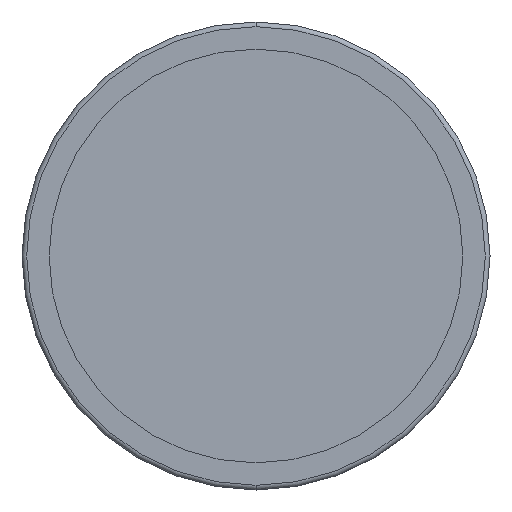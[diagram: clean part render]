
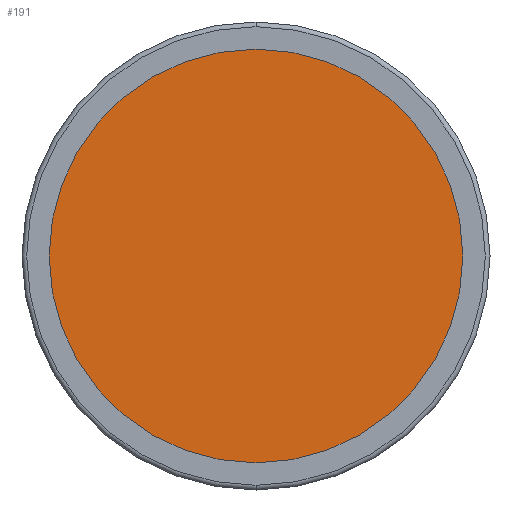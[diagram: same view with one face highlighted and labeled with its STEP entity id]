
A CAD part, front view. The second image highlights one B-rep face of the part: STEP entity #191.
In plain terms, the highlighted planar face has unit normal (0, -1, 0).
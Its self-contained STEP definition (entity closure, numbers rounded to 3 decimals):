
#124 = EDGE_CURVE ( 'NONE', #1343, #1833, #1365, .T. ) ;
#161 = AXIS2_PLACEMENT_3D ( 'NONE', #2200, #1267, #2022 ) ;
#191 = ADVANCED_FACE ( 'NONE', ( #866 ), #683, .T. ) ;
#324 = CARTESIAN_POINT ( 'NONE',  ( 0., -3., 43.75 ) ) ;
#334 = CARTESIAN_POINT ( 'NONE',  ( 0., -3., -43.75 ) ) ;
#518 = EDGE_CURVE ( 'NONE', #1833, #1343, #700, .T. ) ;
#644 = DIRECTION ( 'NONE',  ( 0., 0., 1. ) ) ;
#683 = PLANE ( 'NONE',  #161 ) ;
#700 = CIRCLE ( 'NONE', #1671, 43.75 ) ;
#797 = CARTESIAN_POINT ( 'NONE',  ( 0., -3., 0. ) ) ;
#866 = FACE_OUTER_BOUND ( 'NONE', #1251, .T. ) ;
#933 = AXIS2_PLACEMENT_3D ( 'NONE', #797, #1584, #2105 ) ;
#1251 = EDGE_LOOP ( 'NONE', ( #1621, #2093 ) ) ;
#1267 = DIRECTION ( 'NONE',  ( 0., -1., 0. ) ) ;
#1343 = VERTEX_POINT ( 'NONE', #334 ) ;
#1365 = CIRCLE ( 'NONE', #933, 43.75 ) ;
#1535 = CARTESIAN_POINT ( 'NONE',  ( 0., -3., 0. ) ) ;
#1584 = DIRECTION ( 'NONE',  ( 0., 1., 0. ) ) ;
#1621 = ORIENTED_EDGE ( 'NONE', *, *, #518, .F. ) ;
#1671 = AXIS2_PLACEMENT_3D ( 'NONE', #1535, #2305, #644 ) ;
#1833 = VERTEX_POINT ( 'NONE', #324 ) ;
#2022 = DIRECTION ( 'NONE',  ( 0., 0., -1. ) ) ;
#2093 = ORIENTED_EDGE ( 'NONE', *, *, #124, .F. ) ;
#2105 = DIRECTION ( 'NONE',  ( 0., 0., 1. ) ) ;
#2200 = CARTESIAN_POINT ( 'NONE',  ( -43.75, -3., 0. ) ) ;
#2305 = DIRECTION ( 'NONE',  ( 0., 1., 0. ) ) ;
